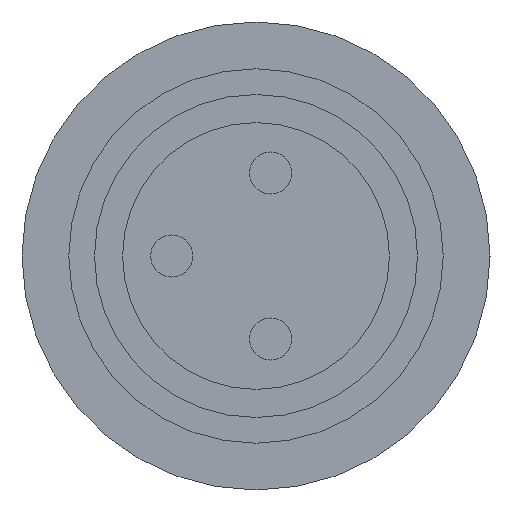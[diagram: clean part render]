
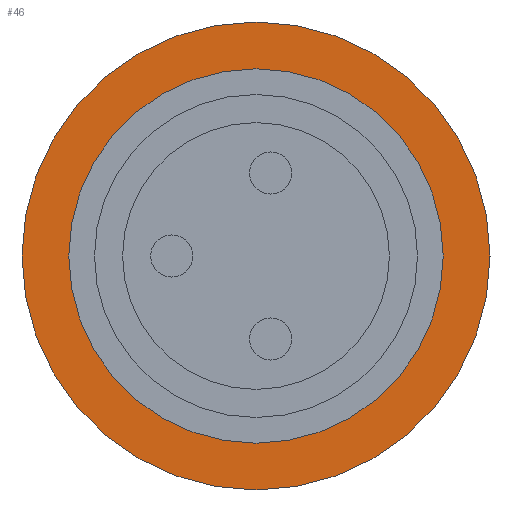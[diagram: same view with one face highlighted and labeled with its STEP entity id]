
A CAD part, left-side view. The second image highlights one B-rep face of the part: STEP entity #46.
In plain terms, the highlighted planar face has unit normal (-1, 0, 0).
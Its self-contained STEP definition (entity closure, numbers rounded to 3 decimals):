
#46=ADVANCED_FACE('',(#78,#79),#80,.F.);
#78=FACE_OUTER_BOUND('',#149,.T.);
#79=FACE_BOUND('',#150,.T.);
#80=PLANE('',#151);
#149=EDGE_LOOP('',(#220,#221));
#150=EDGE_LOOP('',(#222,#223));
#151=AXIS2_PLACEMENT_3D('',#224,#225,#226);
#220=ORIENTED_EDGE('',*,*,#433,.F.);
#221=ORIENTED_EDGE('',*,*,#434,.T.);
#222=ORIENTED_EDGE('',*,*,#435,.F.);
#223=ORIENTED_EDGE('',*,*,#436,.T.);
#224=CARTESIAN_POINT('',(7.022,0.0,0.0));
#225=DIRECTION('',(1.0,0.0,0.0));
#226=DIRECTION('',(0.0,1.0,-0.0));
#433=EDGE_CURVE('',#493,#494,#495,.T.);
#434=EDGE_CURVE('',#493,#494,#496,.T.);
#435=EDGE_CURVE('',#497,#498,#499,.T.);
#436=EDGE_CURVE('',#497,#498,#500,.T.);
#493=VERTEX_POINT('',#593);
#494=VERTEX_POINT('',#594);
#495=CIRCLE('',#595,5.0);
#496=CIRCLE('',#596,5.0);
#497=VERTEX_POINT('',#597);
#498=VERTEX_POINT('',#598);
#499=CIRCLE('',#599,4.0);
#500=CIRCLE('',#600,4.0);
#593=CARTESIAN_POINT('',(7.022,5.0,0.0));
#594=CARTESIAN_POINT('',(7.022,-5.0,0.0));
#595=AXIS2_PLACEMENT_3D('',#713,#714,#715);
#596=AXIS2_PLACEMENT_3D('',#716,#717,#718);
#597=CARTESIAN_POINT('',(7.022,4.0,0.0));
#598=CARTESIAN_POINT('',(7.022,-4.0,0.0));
#599=AXIS2_PLACEMENT_3D('',#719,#720,#721);
#600=AXIS2_PLACEMENT_3D('',#722,#723,#724);
#713=CARTESIAN_POINT('',(7.022,0.0,0.0));
#714=DIRECTION('',(1.0,0.0,0.0));
#715=DIRECTION('',(0.0,1.0,0.0));
#716=CARTESIAN_POINT('',(7.022,0.0,0.0));
#717=DIRECTION('',(-1.0,0.0,0.0));
#718=DIRECTION('',(0.0,1.0,0.0));
#719=CARTESIAN_POINT('',(7.022,0.0,0.0));
#720=DIRECTION('',(-1.0,0.0,0.0));
#721=DIRECTION('',(0.0,1.0,0.0));
#722=CARTESIAN_POINT('',(7.022,0.0,0.0));
#723=DIRECTION('',(1.0,0.0,0.0));
#724=DIRECTION('',(0.0,1.0,0.0));
